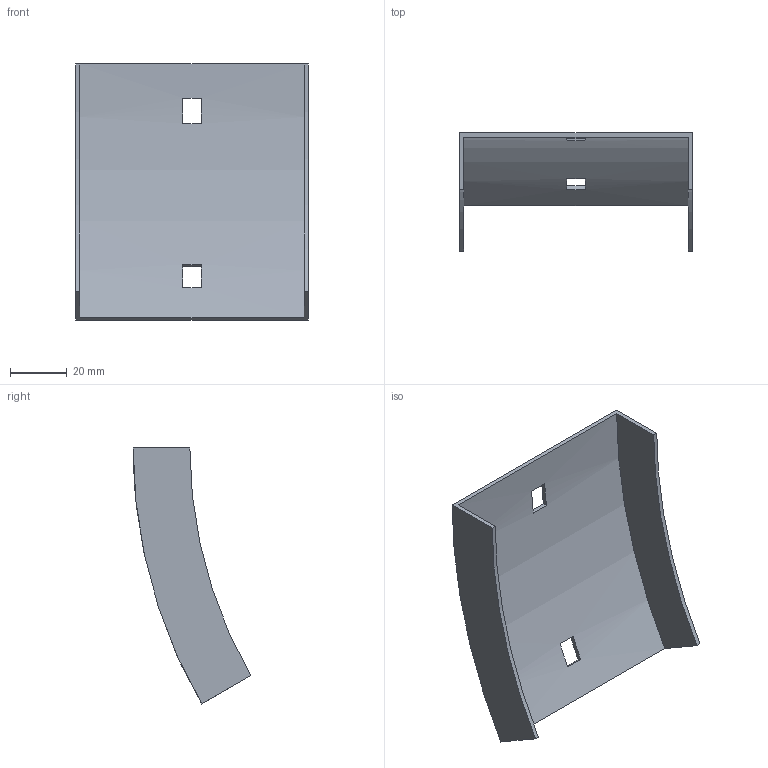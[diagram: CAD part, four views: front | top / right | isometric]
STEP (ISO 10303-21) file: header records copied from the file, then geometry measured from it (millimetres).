
FILE_DESCRIPTION (( 'STEP AP214' ), '1' );
FILE_NAME ('35N1C075.step', '2025-02-21T09:12:49', ( '' ), ( '' ), 'SwSTEP 2.0', 'SolidWorks 2023', '' );
FILE_SCHEMA (( 'AUTOMOTIVE_DESIGN' ));
Length unit declared in the file: millimetre
Products named in the file (1): 35N1C075
Bounding box: 82 x 41.5 x 90.25 mm (x, y, z)
Volume: 16333 mm3; surface area: 22481 mm2
Topology: 1 solids, 1 shells, 18 faces, 48 edges, 32 vertices
Faces by surface type: plane 14, cylinder 4
Entity records: 599 total; most frequent: DIRECTION 102, CARTESIAN_POINT 99, ORIENTED_EDGE 96, EDGE_CURVE 48, AXIS2_PLACEMENT_3D 35, VECTOR 32, VERTEX_POINT 32, LINE 32
